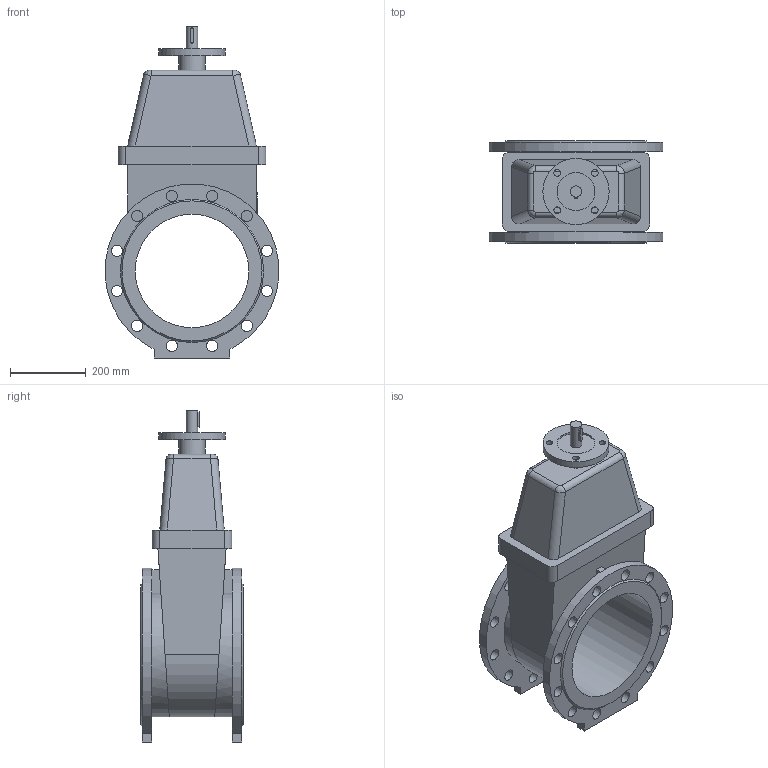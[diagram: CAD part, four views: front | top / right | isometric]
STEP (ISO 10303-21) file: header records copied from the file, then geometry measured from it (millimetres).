
FILE_DESCRIPTION(('STEP AP203'), '1');
FILE_NAME('Çàäâèæêà 47GVA DN300 PN10_PN16 áåç èñïîëíèò. ìåõ.', '', ('UNSPECIFIED'), ('UNSPECIFIED'), 'ASCON STEP Converter 1.6', 'ASCON Math Kernel', '');
FILE_SCHEMA(('CONFIG_CONTROL_DESIGN'));
Length unit declared in the file: millimetre
Bounding box: 458.56 x 270 x 877 mm (x, y, z)
Volume: 30389200.9 mm3; surface area: 1434735.5 mm2
Topology: 1 solids, 1 shells, 117 faces, 299 edges, 195 vertices
Faces by surface type: cylinder 60, plane 51, bspline 4, cone 2
Full cylindrical faces by diameter (mm): 18 x4, 30 x25, 70 x1, 100 x1, 175 x1, 300 x1
Entity records: 4922 total; most frequent: CARTESIAN_POINT 1134, DIRECTION 572, ORIENTED_EDGE 516, EDGE_CURVE 258, EDGE_LOOP 224, AXIS2_PLACEMENT_3D 222, VERTEX_POINT 192, FACE_BOUND 154
